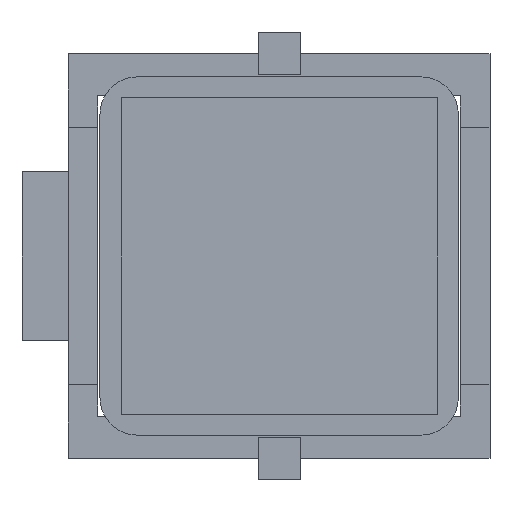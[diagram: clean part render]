
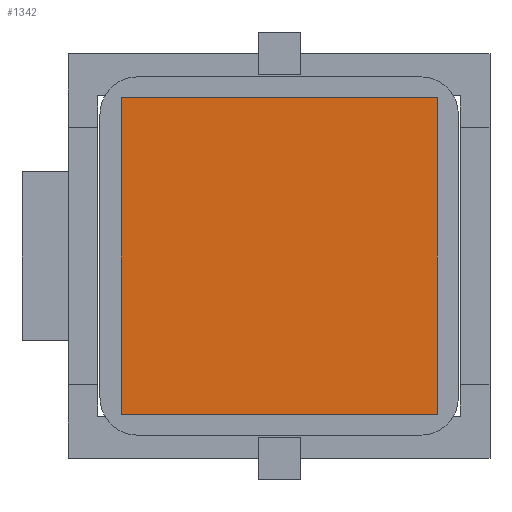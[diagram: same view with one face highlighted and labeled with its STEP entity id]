
A CAD part, front view. The second image highlights one B-rep face of the part: STEP entity #1342.
In plain terms, the highlighted planar face has unit normal (0, -1, 0).
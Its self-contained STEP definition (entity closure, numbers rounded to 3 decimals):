
#4 = CARTESIAN_POINT ( 'NONE',  ( 11.587, -13.936, -0.275 ) ) ;
#183 = CARTESIAN_POINT ( 'NONE',  ( 11.587, -13.936, 14.725 ) ) ;
#281 = VECTOR ( 'NONE', #828, 1000. ) ;
#330 = EDGE_CURVE ( 'NONE', #4161, #1829, #630, .T. ) ;
#363 = DIRECTION ( 'NONE',  ( -1., 0., 0. ) ) ;
#516 = VERTEX_POINT ( 'NONE', #3938 ) ;
#630 = LINE ( 'NONE', #2047, #1836 ) ;
#697 = AXIS2_PLACEMENT_3D ( 'NONE', #4354, #2275, #1494 ) ;
#776 = CARTESIAN_POINT ( 'NONE',  ( -3.413, -13.936, -0.275 ) ) ;
#828 = DIRECTION ( 'NONE',  ( 0., 0., 1. ) ) ;
#1065 = EDGE_CURVE ( 'NONE', #1829, #2733, #3775, .T. ) ;
#1342 = ADVANCED_FACE ( 'NONE', ( #4404 ), #3695, .F. ) ;
#1494 = DIRECTION ( 'NONE',  ( 0., 0., 1. ) ) ;
#1657 = CARTESIAN_POINT ( 'NONE',  ( -3.413, -13.936, 14.725 ) ) ;
#1683 = ORIENTED_EDGE ( 'NONE', *, *, #1065, .F. ) ;
#1767 = EDGE_CURVE ( 'NONE', #516, #4161, #1985, .T. ) ;
#1800 = VECTOR ( 'NONE', #363, 1000. ) ;
#1829 = VERTEX_POINT ( 'NONE', #4 ) ;
#1836 = VECTOR ( 'NONE', #4500, 1000. ) ;
#1960 = VECTOR ( 'NONE', #3704, 1000. ) ;
#1983 = ORIENTED_EDGE ( 'NONE', *, *, #1767, .F. ) ;
#1985 = LINE ( 'NONE', #1657, #1960 ) ;
#2047 = CARTESIAN_POINT ( 'NONE',  ( 11.587, -13.936, -0.275 ) ) ;
#2158 = ORIENTED_EDGE ( 'NONE', *, *, #3897, .F. ) ;
#2275 = DIRECTION ( 'NONE',  ( 0., 1., 0. ) ) ;
#2381 = CARTESIAN_POINT ( 'NONE',  ( -3.413, -13.936, -0.275 ) ) ;
#2547 = LINE ( 'NONE', #3981, #281 ) ;
#2733 = VERTEX_POINT ( 'NONE', #776 ) ;
#3158 = EDGE_LOOP ( 'NONE', ( #2158, #1683, #3464, #1983 ) ) ;
#3464 = ORIENTED_EDGE ( 'NONE', *, *, #330, .F. ) ;
#3695 = PLANE ( 'NONE',  #697 ) ;
#3704 = DIRECTION ( 'NONE',  ( 1., 0., 0. ) ) ;
#3775 = LINE ( 'NONE', #2381, #1800 ) ;
#3897 = EDGE_CURVE ( 'NONE', #2733, #516, #2547, .T. ) ;
#3938 = CARTESIAN_POINT ( 'NONE',  ( -3.413, -13.936, 14.725 ) ) ;
#3981 = CARTESIAN_POINT ( 'NONE',  ( -3.413, -13.936, -0.275 ) ) ;
#4161 = VERTEX_POINT ( 'NONE', #183 ) ;
#4354 = CARTESIAN_POINT ( 'NONE',  ( -3.413, -13.936, 14.725 ) ) ;
#4404 = FACE_OUTER_BOUND ( 'NONE', #3158, .T. ) ;
#4500 = DIRECTION ( 'NONE',  ( 0., 0., -1. ) ) ;
